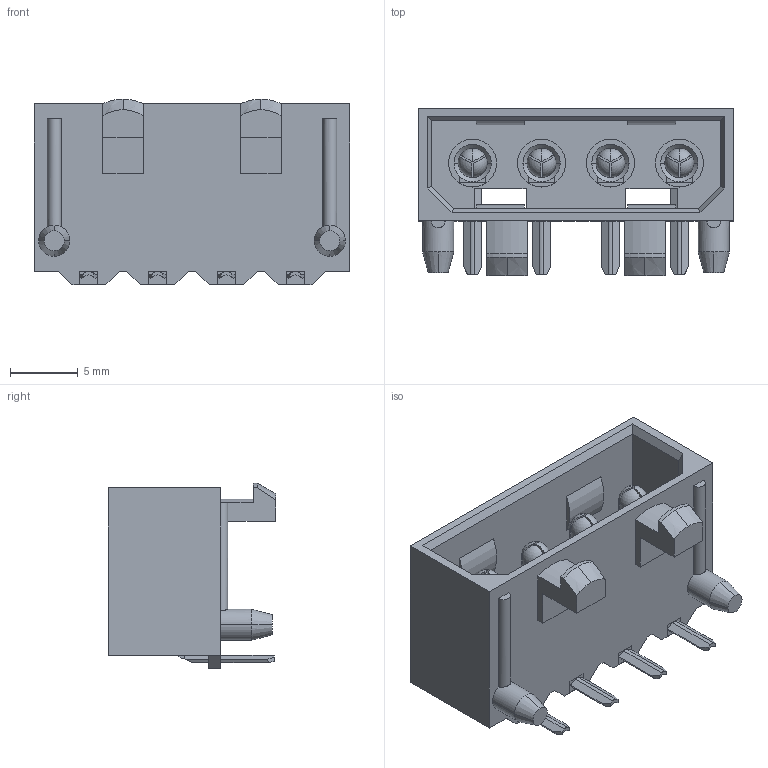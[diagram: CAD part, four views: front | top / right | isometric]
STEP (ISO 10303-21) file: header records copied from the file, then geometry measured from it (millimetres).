
FILE_DESCRIPTION(('STEP AP242'),'1');
FILE_NAME('15-24-4441.stp','2022-12-25T20:39:57',('TraceParts'),('TraceParts S.A.'),'Spatial InterOp 3D',' ',' ');
FILE_SCHEMA(('AP242_MANAGED_MODEL_BASED_3D_ENGINEERING_MIM_LF {1 0 10303 442 1 1 4}'));
Length unit declared in the file: millimetre
Products named in the file (1): 15-24-4441_1
Bounding box: 23.27 x 12.32 x 13.69 mm (x, y, z)
Volume: 1191.4 mm3; surface area: 2389.6 mm2
Topology: 1 solids, 1 shells, 347 faces, 992 edges, 710 vertices
Faces by surface type: plane 241, cylinder 70, cone 20, sphere 16
Entity records: 11316 total; most frequent: CARTESIAN_POINT 2033, DIRECTION 1918, ORIENTED_EDGE 1884, EDGE_CURVE 942, LINE 736, VECTOR 736, VERTEX_POINT 610, AXIS2_PLACEMENT_3D 591
